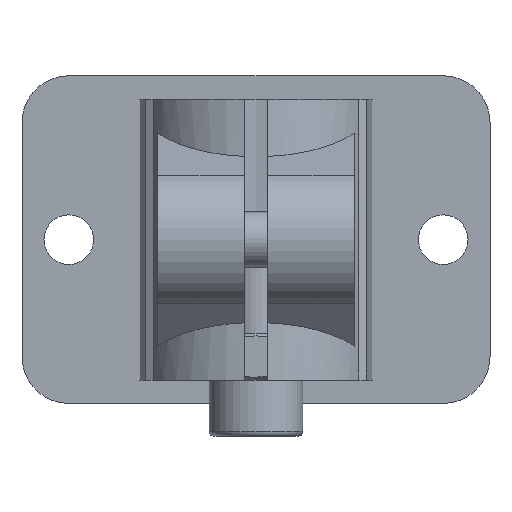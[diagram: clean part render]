
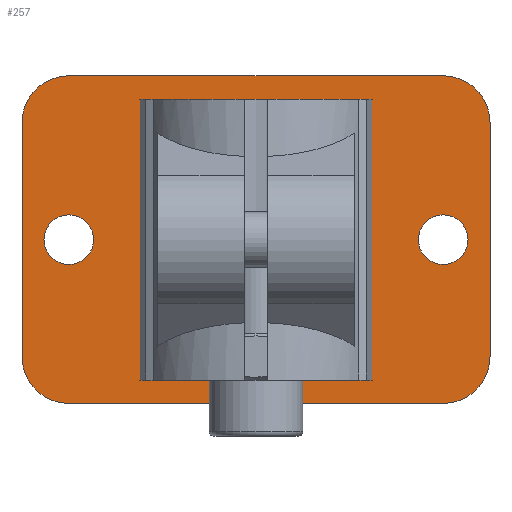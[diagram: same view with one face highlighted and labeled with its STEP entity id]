
A CAD part, left-side view. The second image highlights one B-rep face of the part: STEP entity #257.
In plain terms, the highlighted planar face has unit normal (-1, 0, 0).
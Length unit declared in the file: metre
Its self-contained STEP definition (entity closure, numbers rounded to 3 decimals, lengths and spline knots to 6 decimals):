
#257 = ADVANCED_FACE( '', ( #456, #457, #458, #459 ), #460, .F. );
#456 = FACE_BOUND( '', #664, .T. );
#457 = FACE_BOUND( '', #665, .T. );
#458 = FACE_OUTER_BOUND( '', #666, .T. );
#459 = FACE_BOUND( '', #667, .T. );
#460 = PLANE( '', #668 );
#664 = EDGE_LOOP( '', ( #1030 ) );
#665 = EDGE_LOOP( '', ( #1031, #1032, #1033, #1034 ) );
#666 = EDGE_LOOP( '', ( #1035, #1036, #1037, #1038, #1039, #1040, #1041, #1042 ) );
#667 = EDGE_LOOP( '', ( #1043 ) );
#668 = AXIS2_PLACEMENT_3D( '', #1044, #1045, #1046 );
#1030 = ORIENTED_EDGE( '', *, *, #1696, .T. );
#1031 = ORIENTED_EDGE( '', *, *, #1669, .F. );
#1032 = ORIENTED_EDGE( '', *, *, #1697, .T. );
#1033 = ORIENTED_EDGE( '', *, *, #1647, .T. );
#1034 = ORIENTED_EDGE( '', *, *, #1698, .T. );
#1035 = ORIENTED_EDGE( '', *, *, #1699, .F. );
#1036 = ORIENTED_EDGE( '', *, *, #1700, .F. );
#1037 = ORIENTED_EDGE( '', *, *, #1701, .F. );
#1038 = ORIENTED_EDGE( '', *, *, #1702, .F. );
#1039 = ORIENTED_EDGE( '', *, *, #1703, .F. );
#1040 = ORIENTED_EDGE( '', *, *, #1704, .F. );
#1041 = ORIENTED_EDGE( '', *, *, #1705, .F. );
#1042 = ORIENTED_EDGE( '', *, *, #1706, .F. );
#1043 = ORIENTED_EDGE( '', *, *, #1707, .T. );
#1044 = CARTESIAN_POINT( '', ( 0.01299, -0.02, 0.0275 ) );
#1045 = DIRECTION( '', ( 1., 0., 0. ) );
#1046 = DIRECTION( '', ( 0., 1., 0. ) );
#1647 = EDGE_CURVE( '', #1893, #1891, #1894, .T. );
#1669 = EDGE_CURVE( '', #1932, #1934, #1935, .T. );
#1696 = EDGE_CURVE( '', #1979, #1979, #1980, .T. );
#1697 = EDGE_CURVE( '', #1932, #1893, #1981, .T. );
#1698 = EDGE_CURVE( '', #1891, #1934, #1982, .T. );
#1699 = EDGE_CURVE( '', #1983, #1984, #1985, .T. );
#1700 = EDGE_CURVE( '', #1986, #1983, #1987, .T. );
#1701 = EDGE_CURVE( '', #1988, #1986, #1989, .T. );
#1702 = EDGE_CURVE( '', #1990, #1988, #1991, .T. );
#1703 = EDGE_CURVE( '', #1992, #1990, #1993, .T. );
#1704 = EDGE_CURVE( '', #1994, #1992, #1995, .T. );
#1705 = EDGE_CURVE( '', #1996, #1994, #1997, .T. );
#1706 = EDGE_CURVE( '', #1984, #1996, #1998, .T. );
#1707 = EDGE_CURVE( '', #1999, #1999, #2000, .T. );
#1891 = VERTEX_POINT( '', #2225 );
#1893 = VERTEX_POINT( '', #2228 );
#1894 = LINE( '', #2229, #2230 );
#1932 = VERTEX_POINT( '', #2279 );
#1934 = VERTEX_POINT( '', #2282 );
#1935 = LINE( '', #2283, #2284 );
#1979 = VERTEX_POINT( '', #2345 );
#1980 = CIRCLE( '', #2346, 0.00265 );
#1981 = LINE( '', #2347, #2348 );
#1982 = LINE( '', #2349, #2350 );
#1983 = VERTEX_POINT( '', #2351 );
#1984 = VERTEX_POINT( '', #2352 );
#1985 = LINE( '', #2353, #2354 );
#1986 = VERTEX_POINT( '', #2355 );
#1987 = CIRCLE( '', #2356, 0.005 );
#1988 = VERTEX_POINT( '', #2357 );
#1989 = LINE( '', #2358, #2359 );
#1990 = VERTEX_POINT( '', #2360 );
#1991 = CIRCLE( '', #2361, 0.005 );
#1992 = VERTEX_POINT( '', #2362 );
#1993 = LINE( '', #2363, #2364 );
#1994 = VERTEX_POINT( '', #2365 );
#1995 = CIRCLE( '', #2366, 0.005 );
#1996 = VERTEX_POINT( '', #2367 );
#1997 = LINE( '', #2368, #2369 );
#1998 = CIRCLE( '', #2370, 0.005 );
#1999 = VERTEX_POINT( '', #2371 );
#2000 = CIRCLE( '', #2372, 0.00265 );
#2225 = CARTESIAN_POINT( '', ( 0.01299, 0.008998, 0. ) );
#2228 = CARTESIAN_POINT( '', ( 0.01299, -0.008998, 0. ) );
#2229 = CARTESIAN_POINT( '', ( 0.01299, 0., 0. ) );
#2230 = VECTOR( '', #2706, 1. );
#2279 = CARTESIAN_POINT( '', ( 0.01299, -0.008998, 0.03 ) );
#2282 = CARTESIAN_POINT( '', ( 0.01299, 0.008998, 0.03 ) );
#2283 = CARTESIAN_POINT( '', ( 0.01299, 0., 0.03 ) );
#2284 = VECTOR( '', #2746, 1. );
#2345 = CARTESIAN_POINT( '', ( 0.01299, 0.02265, 0.015 ) );
#2346 = AXIS2_PLACEMENT_3D( '', #2791, #2792, #2793 );
#2347 = CARTESIAN_POINT( '', ( 0.01299, -0.008998, 0.03 ) );
#2348 = VECTOR( '', #2794, 1. );
#2349 = CARTESIAN_POINT( '', ( 0.01299, 0.008998, 0.03 ) );
#2350 = VECTOR( '', #2795, 1. );
#2351 = CARTESIAN_POINT( '', ( 0.01299, 0.02, 0.0325 ) );
#2352 = CARTESIAN_POINT( '', ( 0.01299, -0.02, 0.0325 ) );
#2353 = CARTESIAN_POINT( '', ( 0.01299, 0.02, 0.0325 ) );
#2354 = VECTOR( '', #2796, 1. );
#2355 = CARTESIAN_POINT( '', ( 0.01299, 0.025, 0.0275 ) );
#2356 = AXIS2_PLACEMENT_3D( '', #2797, #2798, #2799 );
#2357 = CARTESIAN_POINT( '', ( 0.01299, 0.025, 0.0025 ) );
#2358 = CARTESIAN_POINT( '', ( 0.01299, 0.025, 0.0025 ) );
#2359 = VECTOR( '', #2800, 1. );
#2360 = CARTESIAN_POINT( '', ( 0.01299, 0.02, -0.0025 ) );
#2361 = AXIS2_PLACEMENT_3D( '', #2801, #2802, #2803 );
#2362 = CARTESIAN_POINT( '', ( 0.01299, -0.02, -0.0025 ) );
#2363 = CARTESIAN_POINT( '', ( 0.01299, -0.02, -0.0025 ) );
#2364 = VECTOR( '', #2804, 1. );
#2365 = CARTESIAN_POINT( '', ( 0.01299, -0.025, 0.0025 ) );
#2366 = AXIS2_PLACEMENT_3D( '', #2805, #2806, #2807 );
#2367 = CARTESIAN_POINT( '', ( 0.01299, -0.025, 0.0275 ) );
#2368 = CARTESIAN_POINT( '', ( 0.01299, -0.025, 0.0275 ) );
#2369 = VECTOR( '', #2808, 1. );
#2370 = AXIS2_PLACEMENT_3D( '', #2809, #2810, #2811 );
#2371 = CARTESIAN_POINT( '', ( 0.01299, -0.01735, 0.015 ) );
#2372 = AXIS2_PLACEMENT_3D( '', #2812, #2813, #2814 );
#2706 = DIRECTION( '', ( 0., 1., 0. ) );
#2746 = DIRECTION( '', ( 0., 1., 0. ) );
#2791 = CARTESIAN_POINT( '', ( 0.01299, 0.02, 0.015 ) );
#2792 = DIRECTION( '', ( 1., 0., 0. ) );
#2793 = DIRECTION( '', ( 0., 1., 0. ) );
#2794 = DIRECTION( '', ( 0., 0., -1. ) );
#2795 = DIRECTION( '', ( 0., 0., 1. ) );
#2796 = DIRECTION( '', ( 0., -1., 0. ) );
#2797 = CARTESIAN_POINT( '', ( 0.01299, 0.02, 0.0275 ) );
#2798 = DIRECTION( '', ( 1., 0., 0. ) );
#2799 = DIRECTION( '', ( 0., 1., 0. ) );
#2800 = DIRECTION( '', ( 0., 0., 1. ) );
#2801 = CARTESIAN_POINT( '', ( 0.01299, 0.02, 0.0025 ) );
#2802 = DIRECTION( '', ( 1., 0., 0. ) );
#2803 = DIRECTION( '', ( 0., -1., 0. ) );
#2804 = DIRECTION( '', ( 0., 1., 0. ) );
#2805 = CARTESIAN_POINT( '', ( 0.01299, -0.02, 0.0025 ) );
#2806 = DIRECTION( '', ( 1., 0., 0. ) );
#2807 = DIRECTION( '', ( 0., 1., 0. ) );
#2808 = DIRECTION( '', ( 0., 0., -1. ) );
#2809 = CARTESIAN_POINT( '', ( 0.01299, -0.02, 0.0275 ) );
#2810 = DIRECTION( '', ( 1., 0., 0. ) );
#2811 = DIRECTION( '', ( 0., 1., 0. ) );
#2812 = CARTESIAN_POINT( '', ( 0.01299, -0.02, 0.015 ) );
#2813 = DIRECTION( '', ( 1., 0., 0. ) );
#2814 = DIRECTION( '', ( 0., 1., 0. ) );
